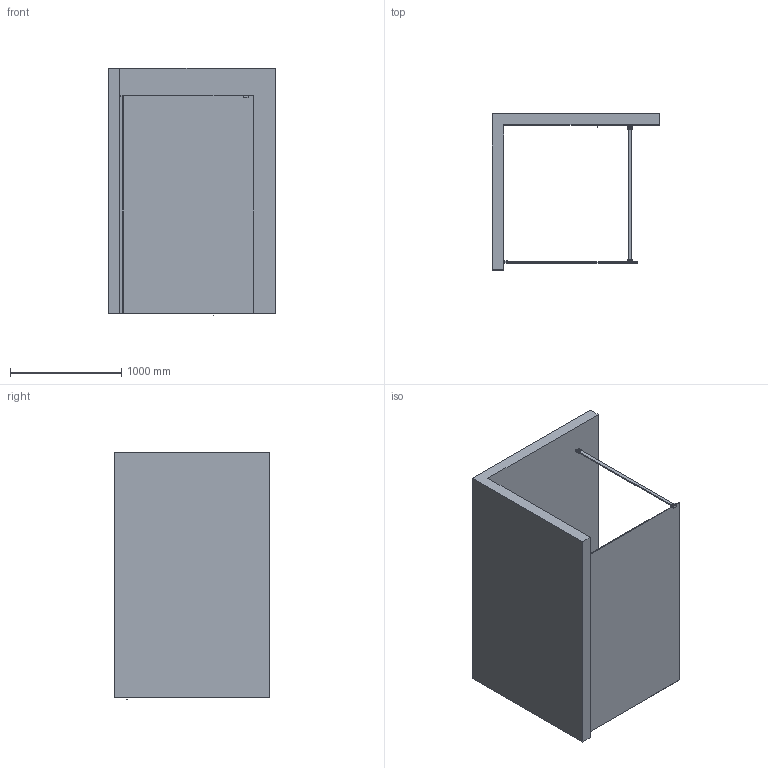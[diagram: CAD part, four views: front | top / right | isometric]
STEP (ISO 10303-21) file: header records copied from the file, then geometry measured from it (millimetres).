
FILE_DESCRIPTION((''),'2;1');
FILE_NAME('0-703510-1_ASM','2022-06-07T15:17:29',('M'),(''),'CREO PARAMETRIC BY PTC INC, 2017110','CREO PARAMETRIC BY PTC INC, 2017110','');
FILE_SCHEMA(('CONFIG_CONTROL_DESIGN'));
Length unit declared in the file: millimetre
Products named in the file (15): 00; 004; 0046; 20002; 0047; CTZG_ST4X30; M6-8; M4-5; 0048; 0; 0-703510-1_ASM
Assembly tree (22 placements, depth 2):
  0-703510-1_ASM
    00
    00
    004
    00
    00
    0046
    20002
    0047
    CTZG_ST4X30  x2
    M6-8  x2
    M4-5  x7
    0048
    00
    0
Bounding box: 1500 x 1400 x 2225.7 mm (x, y, z)
Volume: 635719779.4 mm3; surface area: 18268167.4 mm2
Topology: 22 solids, 22 shells, 626 faces, 1638 edges, 1072 vertices
Faces by surface type: cylinder 299, plane 191, bspline 120, cone 12, torus 4
Entity records: 22583 total; most frequent: CARTESIAN_POINT 15108, ORIENTED_EDGE 1598, DIRECTION 1297, EDGE_CURVE 799, VERTEX_POINT 525, AXIS2_PLACEMENT_3D 440, VECTOR 417, LINE 417
